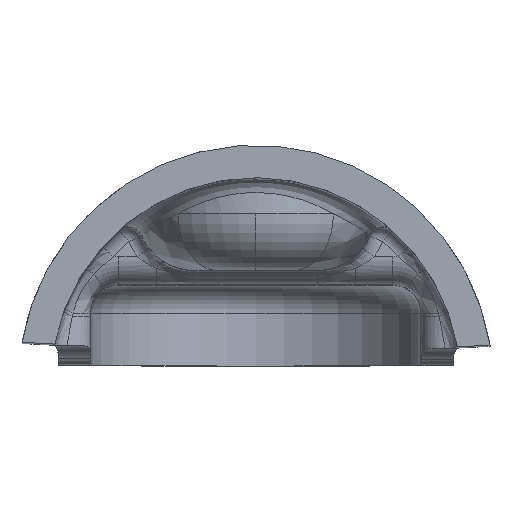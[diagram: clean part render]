
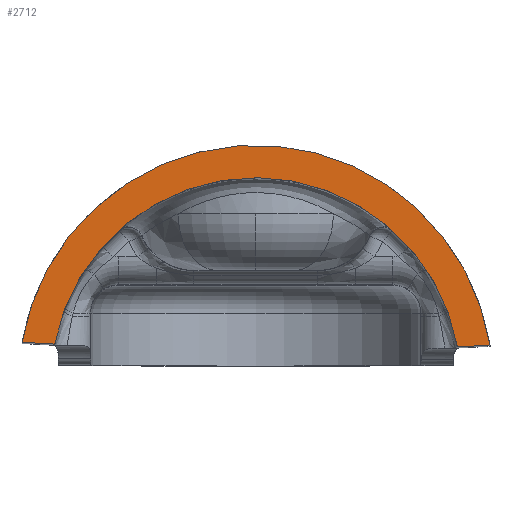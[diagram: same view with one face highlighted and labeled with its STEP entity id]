
A CAD part, top view. The second image highlights one B-rep face of the part: STEP entity #2712.
In plain terms, the highlighted planar face has unit normal (0, 0, 1).
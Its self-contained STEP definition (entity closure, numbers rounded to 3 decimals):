
#261 = CARTESIAN_POINT ( 'NONE',  ( 0., 0., 49.5 ) ) ;
#395 = LINE ( 'NONE', #3158, #1271 ) ;
#532 = VECTOR ( 'NONE', #3782, 1000. ) ;
#560 = DIRECTION ( 'NONE',  ( 0., 0., -1. ) ) ;
#598 = DIRECTION ( 'NONE',  ( 1., 0., 0. ) ) ;
#623 = LINE ( 'NONE', #1377, #532 ) ;
#626 = CIRCLE ( 'NONE', #2629, 16.8 ) ;
#843 = VERTEX_POINT ( 'NONE', #3499 ) ;
#857 = VERTEX_POINT ( 'NONE', #2181 ) ;
#949 = DIRECTION ( 'NONE',  ( 0., 0., 1. ) ) ;
#950 = EDGE_LOOP ( 'NONE', ( #3968, #2271, #4229, #1893 ) ) ;
#973 = CARTESIAN_POINT ( 'NONE',  ( 0., 0., 49.5 ) ) ;
#1271 = VECTOR ( 'NONE', #3866, 1000. ) ;
#1282 = DIRECTION ( 'NONE',  ( 0., 0., 1. ) ) ;
#1377 = CARTESIAN_POINT ( 'NONE',  ( -14.243, 2.716, 49.5 ) ) ;
#1444 = AXIS2_PLACEMENT_3D ( 'NONE', #2250, #560, #2274 ) ;
#1751 = EDGE_CURVE ( 'NONE', #857, #3031, #626, .T. ) ;
#1893 = ORIENTED_EDGE ( 'NONE', *, *, #2011, .T. ) ;
#1935 = CIRCLE ( 'NONE', #1444, 14.5 ) ;
#1958 = PLANE ( 'NONE',  #2973 ) ;
#2011 = EDGE_CURVE ( 'NONE', #843, #857, #395, .T. ) ;
#2181 = CARTESIAN_POINT ( 'NONE',  ( 16.591, 2.639, 49.5 ) ) ;
#2184 = CARTESIAN_POINT ( 'NONE',  ( -16.559, 2.837, 49.5 ) ) ;
#2250 = CARTESIAN_POINT ( 'NONE',  ( 0., 0., 49.5 ) ) ;
#2271 = ORIENTED_EDGE ( 'NONE', *, *, #2371, .T. ) ;
#2274 = DIRECTION ( 'NONE',  ( 1., 0., 0. ) ) ;
#2284 = FACE_OUTER_BOUND ( 'NONE', #950, .T. ) ;
#2371 = EDGE_CURVE ( 'NONE', #3031, #2782, #623, .T. ) ;
#2629 = AXIS2_PLACEMENT_3D ( 'NONE', #261, #1282, #598 ) ;
#2712 = ADVANCED_FACE ( 'NONE', ( #2284 ), #1958, .T. ) ;
#2782 = VERTEX_POINT ( 'NONE', #3757 ) ;
#2973 = AXIS2_PLACEMENT_3D ( 'NONE', #973, #949, #2984 ) ;
#2984 = DIRECTION ( 'NONE',  ( 1., 0., 0. ) ) ;
#3031 = VERTEX_POINT ( 'NONE', #2184 ) ;
#3158 = CARTESIAN_POINT ( 'NONE',  ( 14.28, 2.518, 49.5 ) ) ;
#3499 = CARTESIAN_POINT ( 'NONE',  ( 14.28, 2.518, 49.5 ) ) ;
#3757 = CARTESIAN_POINT ( 'NONE',  ( -14.243, 2.716, 49.5 ) ) ;
#3782 = DIRECTION ( 'NONE',  ( 0.999, -0.052, 0. ) ) ;
#3866 = DIRECTION ( 'NONE',  ( 0.999, 0.052, 0. ) ) ;
#3968 = ORIENTED_EDGE ( 'NONE', *, *, #1751, .T. ) ;
#4229 = ORIENTED_EDGE ( 'NONE', *, *, #4326, .T. ) ;
#4326 = EDGE_CURVE ( 'NONE', #2782, #843, #1935, .T. ) ;
